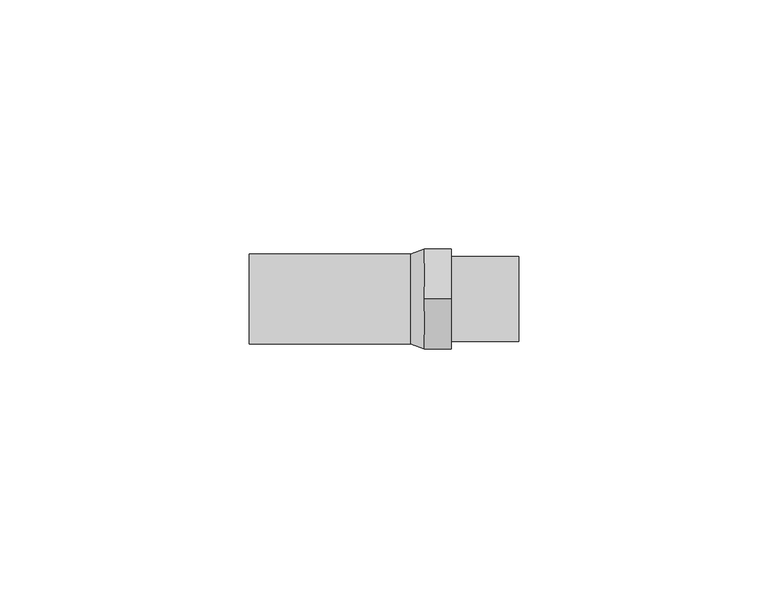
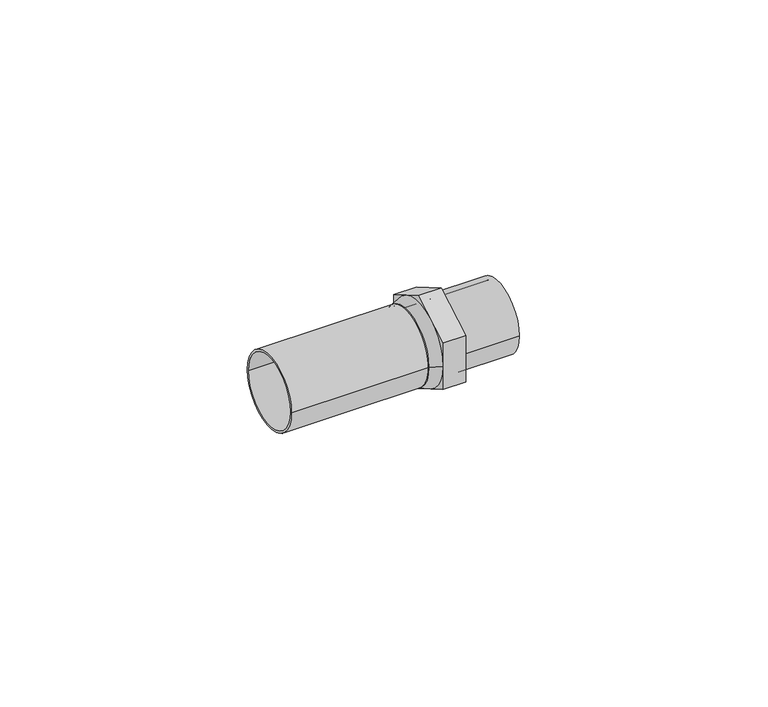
"""IFC4 building model written with IfcOpenShell, lengths in millimetres: pipe fitting geometry, VALTEC_VTi.906.I_Вставка с наружной резьбой нержавеющая сталь : VTi.906.I."""

import ifcopenshell
import ifcopenshell.guid

model = None  # the IFC model being written
_history = None  # IfcOwnerHistory: only IFC2X3 demands one
_inside = {}  # id of a spatial element -> (the spatial element, [elements in it])
_under = {}  # id of a project, library or spatial element -> (it, [spatial elements below it])
_declared = {}  # id of a project -> (the project, [libraries it declares])
_typed = {}  # id of a type object -> (the type object, [elements of that type])
_made_of = {}  # id of a material, layer set ... -> (it, [elements and type objects made of it])


def new_model(schema):
    """Start an empty IFC model of exactly this schema.

    Asked for "IFC4X3", IfcOpenShell would pick the latest addendum, in which some entities
    have other attributes; the version numbers below select the first issue.
    IFC2X3 requires an IfcOwnerHistory on every rooted entity: one is made here for all.
    """
    global model, _history
    if schema == "IFC4X3":
        model = ifcopenshell.file(schema_version=(4, 3, 0, 0))
    else:
        model = ifcopenshell.file(schema=schema)
    _inside.clear()
    _under.clear()
    _declared.clear()
    _typed.clear()
    _made_of.clear()
    _history = None
    if model.schema == "IFC2X3":
        org = make("IfcOrganization", Name="unknown")
        user = make(
            "IfcPersonAndOrganization",
            ThePerson=make("IfcPerson", FamilyName="unknown"),
            TheOrganization=org,
        )
        app = make(
            "IfcApplication",
            ApplicationDeveloper=org,
            Version="unknown",
            ApplicationFullName="unknown",
            ApplicationIdentifier="unknown",
        )
        _history = make(
            "IfcOwnerHistory",
            OwningUser=user,
            OwningApplication=app,
            ChangeAction="ADDED",
            CreationDate=0,
        )
    return model


def make(cls, **values):
    """One entity of the class cls with the attributes given. An attribute that is None is left unset."""
    return model.create_entity(
        cls, **{name: value for name, value in values.items() if value is not None}
    )


def rooted(cls, **values):
    """An entity with a GlobalId (a new one), such as an element, a storey or a relation."""
    return make(cls, GlobalId=ifcopenshell.guid.new(), OwnerHistory=_history, **values)


def si_unit(unit_type, name, prefix=None):
    """IfcSIUnit, for example si_unit("LENGTHUNIT", "METRE", prefix="MILLI")."""
    return make("IfcSIUnit", UnitType=unit_type, Prefix=prefix, Name=name)


def assignment(units):
    """IfcUnitAssignment: the units of a project."""
    return None if units is None else make("IfcUnitAssignment", Units=units)


def point(xyz):
    """IfcCartesianPoint."""
    return None if xyz is None else make("IfcCartesianPoint", Coordinates=xyz)


def direction(xyz):
    """IfcDirection."""
    return None if xyz is None else make("IfcDirection", DirectionRatios=xyz)


def frame(location, z_axis=None, x_axis=None):
    """IfcAxis2Placement3D, a coordinate frame: its origin and axes. An axis left out is left unset."""
    return make(
        "IfcAxis2Placement3D",
        Location=point(location),
        Axis=direction(z_axis),
        RefDirection=direction(x_axis),
    )


def frame_2d(location, x_axis=None):
    """IfcAxis2Placement2D, a coordinate frame in the plane: its origin and x axis."""
    return make(
        "IfcAxis2Placement2D", Location=point(location), RefDirection=direction(x_axis)
    )


def origin():
    """The frame at (0, 0, 0) with its axes left unset."""
    return frame((0.0, 0.0, 0.0))


def origin_2d():
    """The frame at (0, 0) in the plane with its x axis left unset."""
    return frame_2d((0.0, 0.0))


def place(relative_to, where):
    """IfcLocalPlacement: puts the frame where relative to a parent placement (None: the world)."""
    return make(
        "IfcLocalPlacement", PlacementRelTo=relative_to, RelativePlacement=where
    )


def context(
    kind, dimensions, precision=None, world=None, true_north=None, identifier=None
):
    """IfcGeometricRepresentationContext, for example the 3D "Model" context."""
    return make(
        "IfcGeometricRepresentationContext",
        ContextIdentifier=identifier,
        ContextType=kind,
        CoordinateSpaceDimension=dimensions,
        Precision=precision,
        WorldCoordinateSystem=world,
        TrueNorth=true_north,
    )


def project(units=None, contexts=None):
    """IfcProject with its units and contexts."""
    return rooted(
        "IfcProject",
        Name="project",
        RepresentationContexts=contexts,
        UnitsInContext=assignment(units),
    )


def spatial(cls, under=None, at=None, **own):
    """A site, building, storey or space (cls), placed at a placement, below another one or the project."""
    s = rooted(cls, ObjectPlacement=at, **own)
    if under is not None:
        _under.setdefault(under.id(), (under, []))[1].append(s)
    return s


def polyline(points):
    """IfcPolyline through the points."""
    return make("IfcPolyline", Points=[point(p) for p in points])


def circle_curve(where, radius):
    """IfcCircle in the frame where."""
    return make("IfcCircle", Position=where, Radius=radius)


def trimmed(basis, trim1, trim2, sense, master):
    """IfcTrimmedCurve: the piece of a basis curve between two trims."""
    return make(
        "IfcTrimmedCurve",
        BasisCurve=basis,
        Trim1=trim1,
        Trim2=trim2,
        SenseAgreement=sense,
        MasterRepresentation=master,
    )


def segment(curve, same_sense, transition):
    """IfcCompositeCurveSegment."""
    return make(
        "IfcCompositeCurveSegment",
        Transition=transition,
        SameSense=same_sense,
        ParentCurve=curve,
    )


def composite_curve(segments, self_intersect=None):
    """IfcCompositeCurve: segments joined end to end."""
    return make("IfcCompositeCurve", Segments=segments, SelfIntersect=self_intersect)


def outline(outer, holes=None, kind="AREA"):
    """IfcArbitraryClosedProfileDef: a profile drawn as a closed curve; with holes, ...WithVoids."""
    if holes is None:
        return make("IfcArbitraryClosedProfileDef", ProfileType=kind, OuterCurve=outer)
    return make(
        "IfcArbitraryProfileDefWithVoids",
        ProfileType=kind,
        OuterCurve=outer,
        InnerCurves=holes,
    )


def extrude(swept, where, along, depth):
    """IfcExtrudedAreaSolid: the profile swept, set in the frame where, extruded along a direction by depth."""
    return make(
        "IfcExtrudedAreaSolid",
        SweptArea=swept,
        Position=where,
        ExtrudedDirection=direction(along),
        Depth=depth,
    )


def shape(context_of_items, identifier, shape_type, items):
    """IfcShapeRepresentation: the items that make up one representation, for example the "Body"."""
    return make(
        "IfcShapeRepresentation",
        ContextOfItems=context_of_items,
        RepresentationIdentifier=identifier,
        RepresentationType=shape_type,
        Items=items,
    )


def source(mapping_origin, context_of_items, identifier, shape_type, items):
    """IfcRepresentationMap: a shape defined once, which mapped items show again and again."""
    return make(
        "IfcRepresentationMap",
        MappingOrigin=mapping_origin,
        MappedRepresentation=shape(context_of_items, identifier, shape_type, items),
    )


def transform(
    local_origin,
    x_axis=None,
    y_axis=None,
    z_axis=None,
    scale=None,
    scale2=None,
    scale3=None,
    uniform=True,
):
    """IfcCartesianTransformationOperator3D, or its non-uniform kind. x_axis, y_axis, z_axis: its Axis1, 2, 3."""
    if uniform:
        return make(
            "IfcCartesianTransformationOperator3D",
            Axis1=direction(x_axis),
            Axis2=direction(y_axis),
            LocalOrigin=point(local_origin),
            Scale=scale,
            Axis3=direction(z_axis),
        )
    return make(
        "IfcCartesianTransformationOperator3DnonUniform",
        Axis1=direction(x_axis),
        Axis2=direction(y_axis),
        LocalOrigin=point(local_origin),
        Scale=scale,
        Axis3=direction(z_axis),
        Scale2=scale2,
        Scale3=scale3,
    )


def mapped(mapping_source, mapping_target):
    """IfcMappedItem: shows the shape of a source again, moved by a transform."""
    return make(
        "IfcMappedItem", MappingSource=mapping_source, MappingTarget=mapping_target
    )


def made_of(thing, what):
    """Note that an element or type object is made of a material, layer set ...; save() writes the relation."""
    if what is not None:
        _made_of.setdefault(what.id(), (what, []))[1].append(thing)
    return thing


def element(
    cls,
    number,
    at=None,
    inside=None,
    cuts=None,
    type_object=None,
    material=None,
    context=None,
    identifier="Body",
    shape_type=None,
    held_by="IfcProductDefinitionShape",
    body=None,
    shapes=None,
    **own,
):
    """One element of the class cls, such as IfcWall. Its Tag is "e" and its number.

    at: its placement. inside: the storey or other place that contains it. cuts: it is an
    opening in that element (IfcRelVoidsElement). A single representation is given by context,
    identifier, shape_type and body (its items); several are given by shapes. held_by: the class
    of the entity that holds the representations. save() writes the other relations.
    """
    e = rooted(cls, Tag="e%d" % number, ObjectPlacement=at, **own)
    if body is not None:
        shapes = [shape(context, identifier, shape_type, body)]
    if shapes is not None:
        e.Representation = make(held_by, Representations=shapes)
    if inside is not None:
        _inside.setdefault(inside.id(), (inside, []))[1].append(e)
    if cuts is not None:
        rooted(
            "IfcRelVoidsElement", RelatingBuildingElement=cuts, RelatedOpeningElement=e
        )
    if type_object is not None:
        _typed.setdefault(type_object.id(), (type_object, []))[1].append(e)
    return made_of(e, material)


def aggregate(whole, parts):
    """IfcRelAggregates: a whole, such as a stair, and the parts it consists of."""
    return rooted("IfcRelAggregates", RelatingObject=whole, RelatedObjects=parts)


def save(model, path):
    """Write the relations noted so far, then the file.

    IfcRelAggregates (storeys below a building ...), IfcRelContainedInSpatialStructure (elements
    in a storey), IfcRelDefinesByType, IfcRelAssociatesMaterial and IfcRelDeclares: one each for
    every whole, place, type object, material and project.
    """
    for whole, parts in _under.values():
        aggregate(whole, parts)
    for where, things in _inside.values():
        rooted(
            "IfcRelContainedInSpatialStructure",
            RelatedElements=things,
            RelatingStructure=where,
        )
    for kind, things in _typed.values():
        rooted("IfcRelDefinesByType", RelatedObjects=things, RelatingType=kind)
    for what, things in _made_of.values():
        rooted("IfcRelAssociatesMaterial", RelatedObjects=things, RelatingMaterial=what)
    for by, libraries in _declared.values():
        rooted("IfcRelDeclares", RelatingContext=by, RelatedDefinitions=libraries)
    model.write(path)


def plane_surface(at):
    """IfcPlane: the flat surface through the origin of the frame at, square to its z axis."""
    return make("IfcPlane", Position=at)


def revolved_surface(curve, axis_point, axis_direction):
    """IfcSurfaceOfRevolution: the curve turned about the line through axis_point along axis_direction."""
    return make(
        "IfcSurfaceOfRevolution",
        SweptCurve=make("IfcArbitraryOpenProfileDef", ProfileType="CURVE", Curve=curve),
        AxisPosition=make("IfcAxis1Placement", Location=point(axis_point), Axis=direction(axis_direction)),
    )


def advanced_brep(points, edges, surfaces, faces):
    """IfcAdvancedBrep: a solid bounded by faces that lie on surfaces and meet in shared edges.

    An edge is (start, end): straight between two places in points (the first is 0);
    or (start, end, curve); or (start, end, curve, False) where it runs against its curve.
    A face is (place in surfaces, loops), or (place, loops, False) where it looks against
    its surface's normal. A loop lists edges by number (the first is 1), with a minus sign
    where the edge is run from its end to its start. The first loop is the outer one.
    """
    corners = [point(p) for p in points]
    vertices = [make("IfcVertexPoint", VertexGeometry=c) for c in corners]
    made = []
    for start, end, *more in edges:
        made.append(
            make(
                "IfcEdgeCurve",
                EdgeStart=vertices[start],
                EdgeEnd=vertices[end],
                EdgeGeometry=more[0] if more else make("IfcPolyline", Points=[corners[start], corners[end]]),
                SameSense=more[1] if len(more) > 1 else True,
            )
        )
    hull = []
    for where, loops, *sense in faces:
        bounds = []
        for j, loop in enumerate(loops):
            ring = [make("IfcOrientedEdge", EdgeElement=made[abs(k) - 1], Orientation=k > 0) for k in loop]
            bounds.append(
                make(
                    "IfcFaceOuterBound" if j == 0 else "IfcFaceBound",
                    Bound=make("IfcEdgeLoop", EdgeList=ring),
                    Orientation=True,
                )
            )
        hull.append(make("IfcAdvancedFace", Bounds=bounds, FaceSurface=surfaces[where], SameSense=sense[0] if sense else True))
    return make("IfcAdvancedBrep", Outer=make("IfcClosedShell", CfsFaces=hull))


def pipe_fitting_f7203af7(model_context):
    return source(origin(), model_context, "Body", "SolidModel", [
        extrude(outline(composite_curve([segment(trimmed(circle_curve(origin_2d(), 8.5), [point((-8.5, 0.0))], [point((8.5, 0.0))], False, "CARTESIAN"), True, "CONTINUOUS"), segment(trimmed(circle_curve(origin_2d(), 8.5), [point((8.5, 0.0))], [point((-8.5, 0.0))], False, "CARTESIAN"), True, "CONTINUOUS")], self_intersect=False), holes=[composite_curve([segment(trimmed(circle_curve(origin_2d(), 7.5), [point((-7.5, 0.0))], [point((7.5, 0.0))], True, "CARTESIAN"), True, "CONTINUOUS"), segment(trimmed(circle_curve(origin_2d(), 7.5), [point((7.5, 0.0))], [point((-7.5, 0.0))], True, "CARTESIAN"), True, "CONTINUOUS")], self_intersect=False)]), frame((40.5, 0.0, 0.0), z_axis=(1.0, 0.0, 0.0), x_axis=(0.0, 1.0, 0.0)), (0.0, 0.0, 1.0), 13.5),
        advanced_brep(
        [(35.1, -10.0, 0.0), (35.1, 10.0, 0.0), (32.4, -9.0, 0.0), (32.4, 9.0, 0.0)],
        [
            (0, 1, circle_curve(frame((35.1, 0.0, 0.0), z_axis=(1.0, 0.0, 0.0), x_axis=(0.0, -1.0, 0.0)), 10.0)),
            (1, 0, circle_curve(frame((35.1, 0.0, 0.0), z_axis=(1.0, 0.0, 0.0), x_axis=(0.0, 1.0, 0.0)), 10.0)),
            (2, 3, circle_curve(frame((32.4, 0.0, 0.0), z_axis=(-1.0, 0.0, 0.0), x_axis=(0.0, 1.0, 0.0)), 9.0)),
            (3, 2, circle_curve(frame((32.4, 0.0, 0.0), z_axis=(-1.0, 0.0, 0.0), x_axis=(0.0, -1.0, 0.0)), 9.0)),
            (3, 1),
            (0, 2),
        ],
        [
            plane_surface(frame((35.1, 0.0, 0.0), z_axis=(1.0, 0.0, 0.0), x_axis=(0.0, 0.0, -1.0))),
            plane_surface(frame((32.4, 0.0, 0.0), z_axis=(-1.0, 0.0, 0.0), x_axis=(0.0, 0.0, -1.0))),
            revolved_surface(polyline([(32.4, 9.0, 0.0), (35.1, 10.0, 0.0)]), (8.1, 0.0, 0.0), (1.0, 0.0, 0.0)),
            revolved_surface(polyline([(32.4, -9.0, 0.0), (35.1, -10.0, 0.0)]), (8.1, 0.0, 0.0), (1.0, 0.0, 0.0)),
        ],
        [
            (0, [[1, 2]]),
            (1, [[3, 4]]),
            (2, [[-4, 5, -1, 6]]),
            (3, [[-3, -6, -2, -5]]),
        ],
    ),
        extrude(outline(polyline([(0.0, 11.5470054), (10.0, 5.7735027), (10.0, -5.7735027), (0.0, -11.5470054), (-10.0, -5.7735027), (-10.0, 5.7735027), (0.0, 11.5470054)]), holes=[composite_curve([segment(trimmed(circle_curve(origin_2d(), 7.5), [point((-7.5, 0.0))], [point((7.5, 0.0))], True, "CARTESIAN"), True, "CONTINUOUS"), segment(trimmed(circle_curve(origin_2d(), 7.5), [point((7.5, 0.0))], [point((-7.5, 0.0))], True, "CARTESIAN"), True, "CONTINUOUS")], self_intersect=False)]), frame((35.1, 0.0, 0.0), z_axis=(1.0, 0.0, 0.0), x_axis=(0.0, 1.0, 0.0)), (0.0, 0.0, 1.0), 5.4),
        extrude(outline(composite_curve([segment(trimmed(circle_curve(origin_2d(), 9.0), [point((-9.0, 0.0))], [point((9.0, 0.0))], False, "CARTESIAN"), True, "CONTINUOUS"), segment(trimmed(circle_curve(origin_2d(), 9.0), [point((9.0, 0.0))], [point((-9.0, 0.0))], False, "CARTESIAN"), True, "CONTINUOUS")], self_intersect=False), holes=[composite_curve([segment(trimmed(circle_curve(origin_2d(), 8.5), [point((-8.5, 0.0))], [point((8.5, 0.0))], True, "CARTESIAN"), True, "CONTINUOUS"), segment(trimmed(circle_curve(origin_2d(), 8.5), [point((8.5, 0.0))], [point((-8.5, 0.0))], True, "CARTESIAN"), True, "CONTINUOUS")], self_intersect=False)]), frame((0.0, 0.0, 0.0), z_axis=(1.0, 0.0, 0.0), x_axis=(0.0, 1.0, 0.0)), (0.0, 0.0, 1.0), 32.4),
    ])


if __name__ == "__main__":
    model = new_model("IFC4")
    model_context = context("Model", 3, world=origin())
    ifc_project = project(units=[si_unit("LENGTHUNIT", "METRE", prefix="MILLI")], contexts=[model_context])
    site = spatial("IfcSite", under=ifc_project)
    building = spatial("IfcBuilding", under=site)
    placement = place(None, origin())
    pipe_fitting_shape = pipe_fitting_f7203af7(model_context)
    element("IfcPipeFitting", 1, ObjectType="VALTEC_VTi.906.I_Вставка с наружной резьбой нержавеющая сталь : VTi.906.I", at=placement, inside=building, context=model_context, shape_type="MappedRepresentation", body=[
        mapped(pipe_fitting_shape, transform((0.0, 0.0, 0.0), x_axis=(1.0, 0.0, 0.0), y_axis=(0.0, 1.0, 0.0), z_axis=(0.0, 0.0, 1.0))),
    ])
    save(model, "model.ifc")
